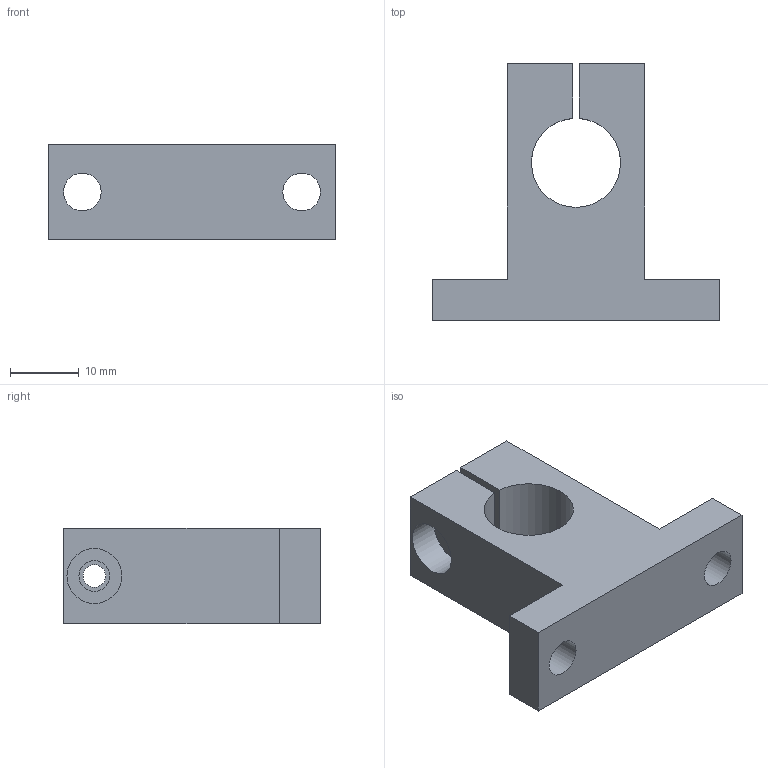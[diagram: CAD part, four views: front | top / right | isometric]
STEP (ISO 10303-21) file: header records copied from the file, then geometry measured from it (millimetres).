
FILE_DESCRIPTION(/* description */ ('Unknown'),/* implementation_level */ '2;1');
FILE_NAME(/* name */ 'SK13',/* time_stamp */ '2025-02-03T17:57:47+08:00',/* author */ ('Unknown'),/* organization */ ('Unknown'),/* preprocessor_version */ 'ST-DEVELOPER v18.102',/* originating_system */ 'Solid Edge',/* authorisation */ 'Unknown');
FILE_SCHEMA (('AUTOMOTIVE_DESIGN {1 0 10303 214 3 1 1}'));
Length unit declared in the file: millimetre
Products named in the file (1): SK13
Bounding box: 42 x 37.5 x 14 mm (x, y, z)
Volume: 9705.6 mm3; surface area: 4822.5 mm2
Topology: 1 solids, 1 shells, 20 faces, 51 edges, 34 vertices
Faces by surface type: plane 14, cylinder 6
Full cylindrical faces by diameter (mm): 3.3 x1, 4.5 x1, 5.5 x2, 8 x1
Entity records: 628 total; most frequent: CARTESIAN_POINT 101, DIRECTION 100, ORIENTED_EDGE 92, EDGE_CURVE 46, VERTEX_POINT 34, LINE 34, VECTOR 34, EDGE_LOOP 34
